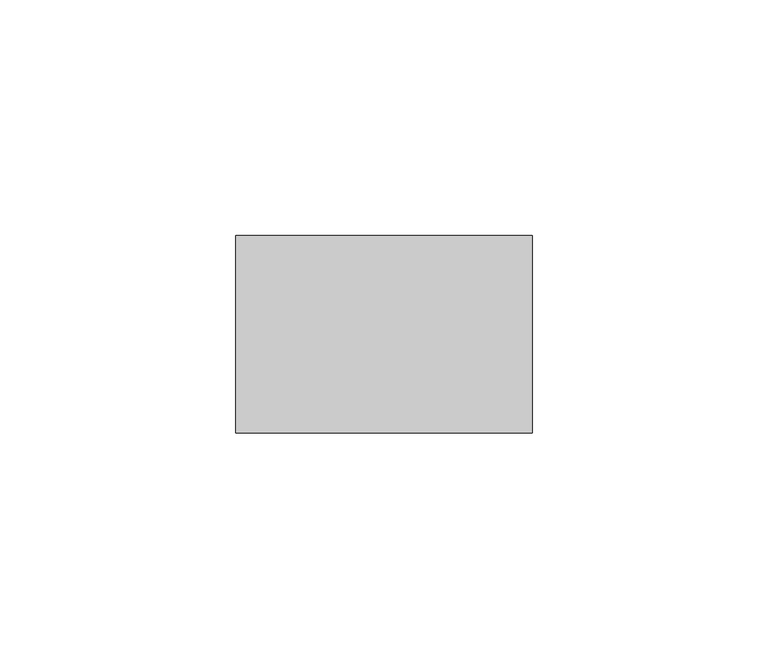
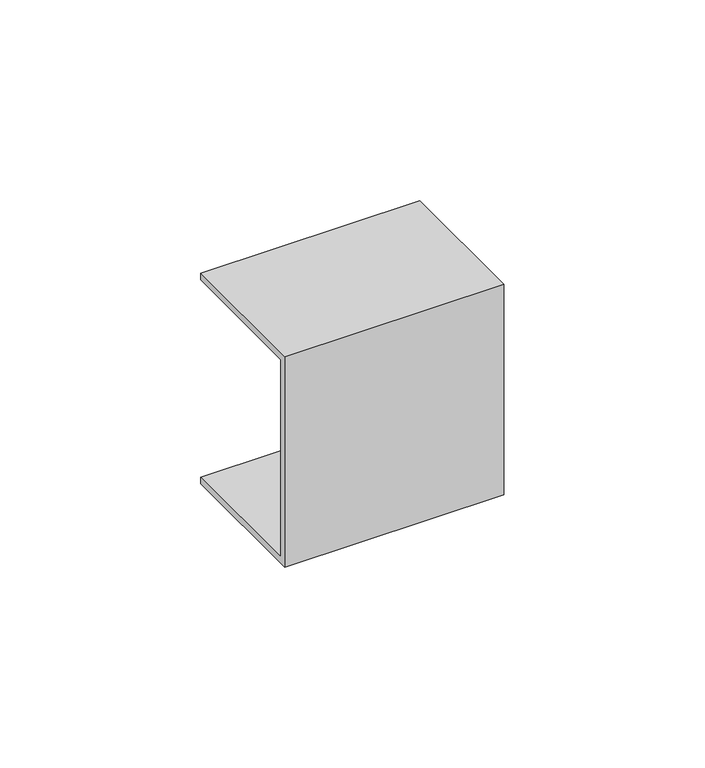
"""IFC4 building model written with IfcOpenShell, lengths in millimetres: proxy geometry, Соединитель_КМС : Соединитель КМС 60x40."""

from ifc_helpers import new_model, si_unit, frame, origin, place, context, project, spatial, polyline, outline, extrude, source, transform, mapped, element, save


def generic_models_1aee0386(model_context):
    return source(origin(), model_context, "Body", "SweptSolid", [
        extrude(outline(polyline([(-42.0, 42.0), (0.0, 42.0), (0.0, 40.0), (-40.0, 40.0), (-40.0, -20.0), (0.0, -20.0), (0.0, -22.0), (-42.0, -22.0), (-42.0, 42.0)])), frame((0.0, 0.0, 0.0), z_axis=(1.0, 0.0, 0.0), x_axis=(0.0, 1.0, 0.0)), (0.0, 0.0, 1.0), 63.0),
    ])


if __name__ == "__main__":
    model = new_model("IFC4")
    model_context = context("Model", 3, world=origin())
    ifc_project = project(units=[si_unit("LENGTHUNIT", "METRE", prefix="MILLI")], contexts=[model_context])
    site = spatial("IfcSite", under=ifc_project)
    building = spatial("IfcBuilding", under=site)
    placement = place(None, origin())
    generic_models_shape = generic_models_1aee0386(model_context)
    element("IfcBuildingElementProxy", 1, Name="Соединитель_КМС : Соединитель КМС 60x40", ObjectType="Соединитель_КМС : Соединитель КМС 60x40", at=placement, inside=building, context=model_context, shape_type="MappedRepresentation", body=[
        mapped(generic_models_shape, transform((0.0, 0.0, 0.0), x_axis=(1.0, 0.0, 0.0), y_axis=(0.0, 1.0, 0.0), z_axis=(0.0, 0.0, 1.0))),
    ])
    save(model, "model.ifc")
